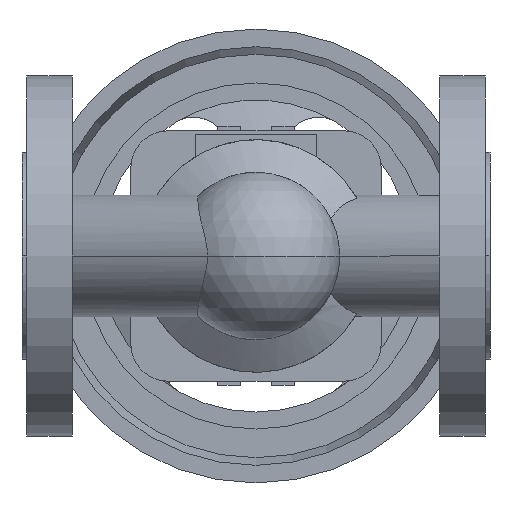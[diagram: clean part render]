
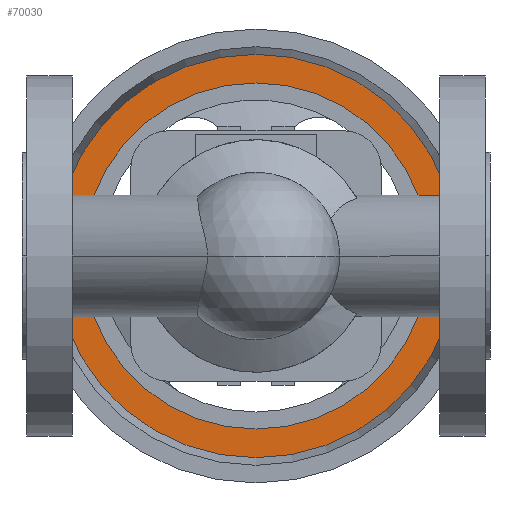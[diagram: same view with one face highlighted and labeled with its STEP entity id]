
A CAD part, front view. The second image highlights one B-rep face of the part: STEP entity #70030.
In plain terms, the highlighted planar face has unit normal (0, -1, 0).
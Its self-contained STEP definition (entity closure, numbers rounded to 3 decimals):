
#69480=CARTESIAN_POINT('',(11.391,283.9,0.));
#69490=VERTEX_POINT('',#69480);
#69570=CARTESIAN_POINT('',(153.609,283.9,0.)
);
#69580=VERTEX_POINT('',#69570);
#69610=CARTESIAN_POINT('',(82.5,283.9,0.));
#69620=DIRECTION('',(0.,1.,0.));
#69630=DIRECTION('',(-1.,0.,0.));
#69640=AXIS2_PLACEMENT_3D('',#69610,#69620,#69630);
#69650=CIRCLE('',#69640,71.109);
#69660=EDGE_CURVE('',#69490,#69580,#69650,.T.);
#69780=CARTESIAN_POINT('',(16.446,283.9,0.))
;
#69790=DIRECTION('',(0.,-1.,0.));
#69800=DIRECTION('',(1.,0.,0.));
#69810=AXIS2_PLACEMENT_3D('',#69780,#69790,#69800);
#69820=PLANE('',#69810);
#69830=EDGE_CURVE('',#69580,#69490,#69650,.T.);
#69840=ORIENTED_EDGE('',*,*,#69830,.F.);
#69850=ORIENTED_EDGE('',*,*,#69660,.F.);
#69860=EDGE_LOOP('',(#69850,#69840));
#69870=FACE_OUTER_BOUND('',#69860,.T.);
#69880=CARTESIAN_POINT('',(82.5,283.9,0.));
#69890=DIRECTION('',(0.,1.,0.));
#69900=DIRECTION('',(-1.,0.,0.));
#69910=AXIS2_PLACEMENT_3D('',#69880,#69890,#69900);
#69920=CIRCLE('',#69910,61.);
#69930=CARTESIAN_POINT('',(143.5,283.9,0.));
#69940=VERTEX_POINT('',#69930);
#69950=CARTESIAN_POINT('',(21.5,283.9,0.));
#69960=VERTEX_POINT('',#69950);
#69970=EDGE_CURVE('',#69940,#69960,#69920,.T.);
#69980=ORIENTED_EDGE('',*,*,#69970,.T.);
#69990=EDGE_CURVE('',#69960,#69940,#69920,.T.);
#70000=ORIENTED_EDGE('',*,*,#69990,.T.);
#70010=EDGE_LOOP('',(#70000,#69980));
#70020=FACE_BOUND('',#70010,.T.);
#70030=ADVANCED_FACE('',(#69870,#70020),#69820,.T.);
